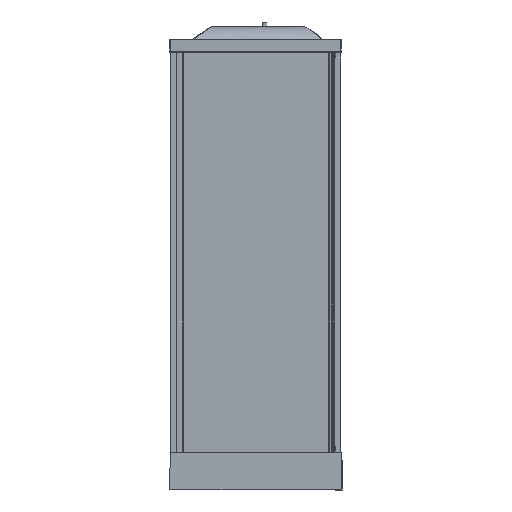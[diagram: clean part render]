
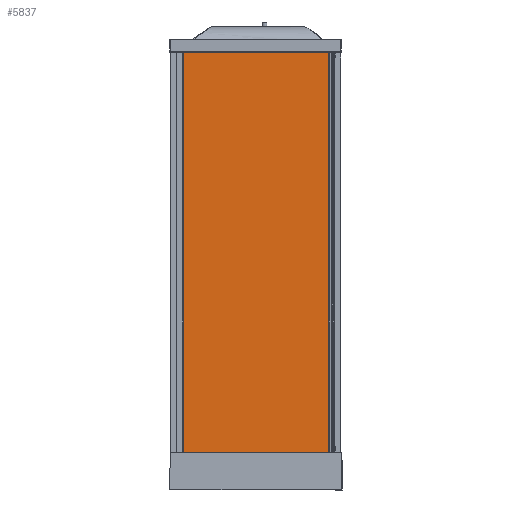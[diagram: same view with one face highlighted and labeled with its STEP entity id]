
A CAD part, left-side view. The second image highlights one B-rep face of the part: STEP entity #5837.
In plain terms, the highlighted planar face has unit normal (-1, 0, 0).
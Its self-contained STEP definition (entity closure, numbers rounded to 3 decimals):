
#5758=CARTESIAN_POINT('',(-964.701,-57.206,164.56));
#5759=VERTEX_POINT('',#5758);
#5766=CARTESIAN_POINT('',(-964.701,-57.206,2061.56));
#5767=VERTEX_POINT('',#5766);
#5768=CARTESIAN_POINT('',(-964.701,-57.206,2061.56));
#5769=DIRECTION('',(0.0,0.0,-1.0));
#5770=VECTOR('',#5769,1897.0);
#5771=LINE('',#5768,#5770);
#5772=EDGE_CURVE('',#5767,#5759,#5771,.T.);
#5797=CARTESIAN_POINT('',(-964.701,-750.206,164.56));
#5798=VERTEX_POINT('',#5797);
#5805=CARTESIAN_POINT('',(-964.701,-57.206,164.56));
#5806=DIRECTION('',(0.0,-1.0,0.0));
#5807=VECTOR('',#5806,693.);
#5808=LINE('',#5805,#5807);
#5809=EDGE_CURVE('',#5759,#5798,#5808,.T.);
#5814=CARTESIAN_POINT('',(-964.701,-27.556,69.71));
#5815=DIRECTION('',(-1.0,0.0,0.0));
#5816=DIRECTION('',(0.0,-1.0,0.0));
#5817=AXIS2_PLACEMENT_3D('',#5814,#5815,#5816);
#5818=PLANE('',#5817);
#5819=CARTESIAN_POINT('',(-964.701,-750.206,2061.56));
#5820=VERTEX_POINT('',#5819);
#5821=CARTESIAN_POINT('',(-964.701,-57.206,2061.56));
#5822=DIRECTION('',(0.0,-1.0,0.0));
#5823=VECTOR('',#5822,693.);
#5824=LINE('',#5821,#5823);
#5825=EDGE_CURVE('',#5767,#5820,#5824,.T.);
#5826=ORIENTED_EDGE('',*,*,#5825,.F.);
#5827=ORIENTED_EDGE('',*,*,#5772,.T.);
#5828=ORIENTED_EDGE('',*,*,#5809,.T.);
#5829=CARTESIAN_POINT('',(-964.701,-750.206,164.56));
#5830=DIRECTION('',(0.0,0.0,1.0));
#5831=VECTOR('',#5830,1897.0);
#5832=LINE('',#5829,#5831);
#5833=EDGE_CURVE('',#5798,#5820,#5832,.T.);
#5834=ORIENTED_EDGE('',*,*,#5833,.T.);
#5835=EDGE_LOOP('',(#5826,#5827,#5828,#5834));
#5836=FACE_OUTER_BOUND('',#5835,.T.);
#5837=ADVANCED_FACE('',(#5836),#5818,.T.);
